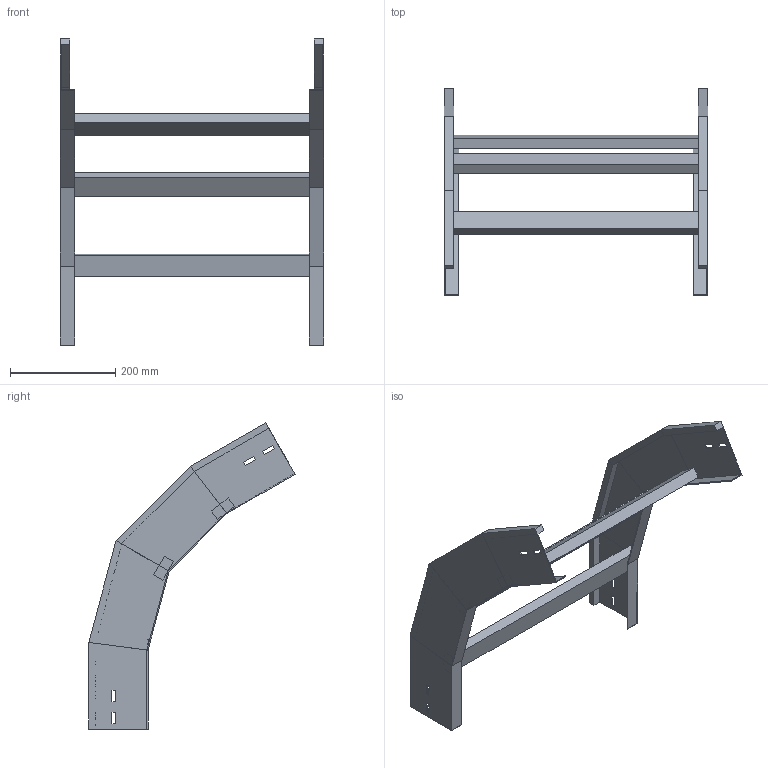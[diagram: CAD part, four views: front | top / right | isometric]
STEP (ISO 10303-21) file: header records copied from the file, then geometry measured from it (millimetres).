
FILE_DESCRIPTION (( 'STEP AP214' ), '1' );
FILE_NAME ('A2_41B3J500.step', '2025-02-21T14:58:23', ( '' ), ( '' ), 'SwSTEP 2.0', 'SolidWorks 2023', '' );
FILE_SCHEMA (( 'AUTOMOTIVE_DESIGN' ));
Length unit declared in the file: millimetre
Products named in the file (3): A2_41B3J500; TRAVERSINO_500; LONGH.DISCESA_60°_H112.5_R300
Assembly tree (5 placements, depth 2):
  A2_41B3J500
    LONGH.DISCESA_60°_H112.5_R300  x2
    TRAVERSINO_500  x3
Bounding box: 500 x 392.12 x 581.75 mm (x, y, z)
Volume: 1843009.3 mm3; surface area: 599381.2 mm2
Topology: 5 solids, 5 shells, 118 faces, 276 edges, 168 vertices
Faces by surface type: plane 118
Entity records: 1672 total; most frequent: CARTESIAN_POINT 276, ORIENTED_EDGE 264, DIRECTION 260, EDGE_CURVE 132, VECTOR 132, LINE 132, VERTEX_POINT 80, EDGE_LOOP 64
